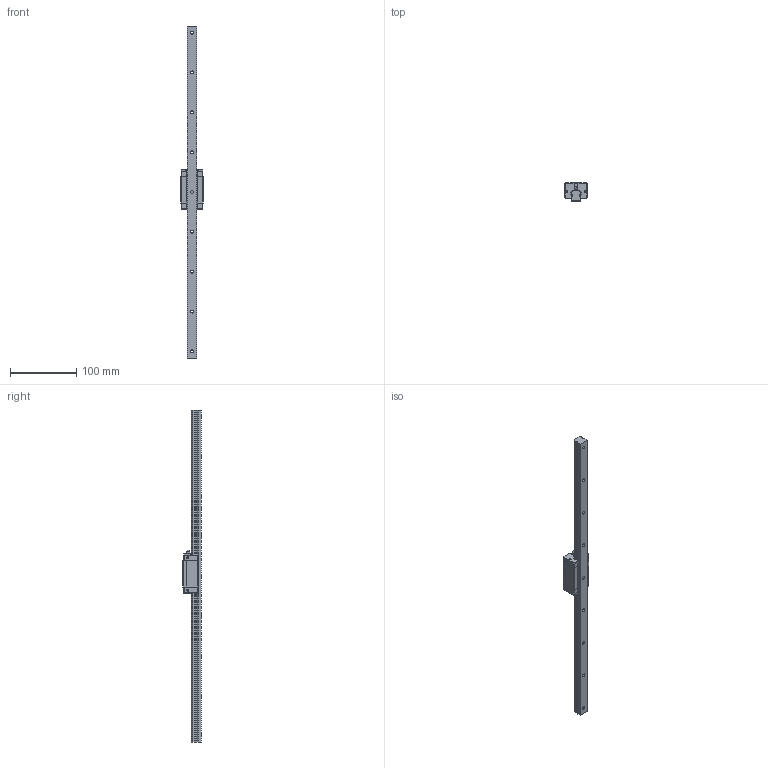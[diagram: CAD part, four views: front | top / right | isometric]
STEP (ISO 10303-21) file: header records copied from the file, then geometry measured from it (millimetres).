
FILE_DESCRIPTION(/* description */ ('STEP AP203'),/* implementation_level */ '2;1');
FILE_NAME(/* name */ 'D:\FOLDER Tomasz Michałek\pliki z pulpitu\Katalogi inne\Technika liniowa\NATECH\Modele 3D\NATECH linear block 3D drawing\NGH\NGH15CA\NGH15CA1R500.stp',/* time_stamp */ '2021-01-21T17:04:24+01:00',/* author */ ('dnia_tomasz_tm'),/* organization */ ('IT'),/* preprocessor_version */ 'ST-DEVELOPER v16.13',/* originating_system */ 'Autodesk Inventor 2018',/* authorisation */ '');
FILE_SCHEMA (('AUTOMOTIVE_DESIGN { 1 0 10303 214 3 1 1 }'));
Length unit declared in the file: millimetre
Products named in the file (3): NGH15CA1R500ZACI; GHH15CA1R500ZACI_1_GHH15CA; GHH15CA1R500ZACI_2_GHH15CA
Assembly tree (2 placements, depth 2):
  NGH15CA1R500ZACI
    GHH15CA1R500ZACI_1_GHH15CA
    GHH15CA1R500ZACI_2_GHH15CA
Bounding box: 34 x 28 x 500 mm (x, y, z)
Volume: 135415.5 mm3; surface area: 48204 mm2
Topology: 7 solids, 7 shells, 414 faces, 1084 edges, 718 vertices
Faces by surface type: plane 320, cylinder 71, cone 10, torus 8, sphere 5
Full cylindrical faces by diameter (mm): 0.425 x4, 2.638 x4, 3.15 x6, 3.2 x4, 4 x4, 4.5 x9, 5 x1, 7.5 x9
Entity records: 12432 total; most frequent: CARTESIAN_POINT 2177, DIRECTION 2056, ORIENTED_EDGE 2046, EDGE_CURVE 1023, LINE 804, VECTOR 804, VERTEX_POINT 711, AXIS2_PLACEMENT_3D 626
